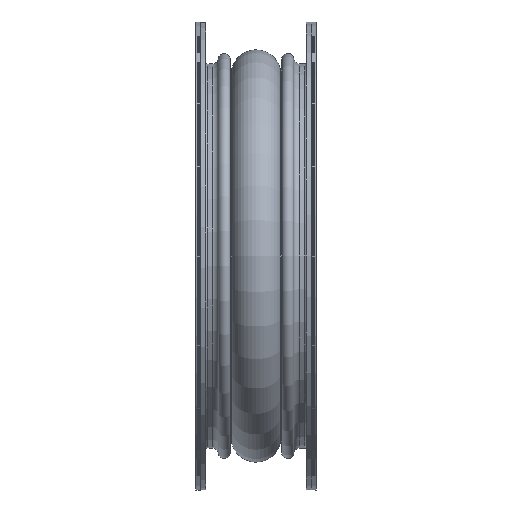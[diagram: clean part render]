
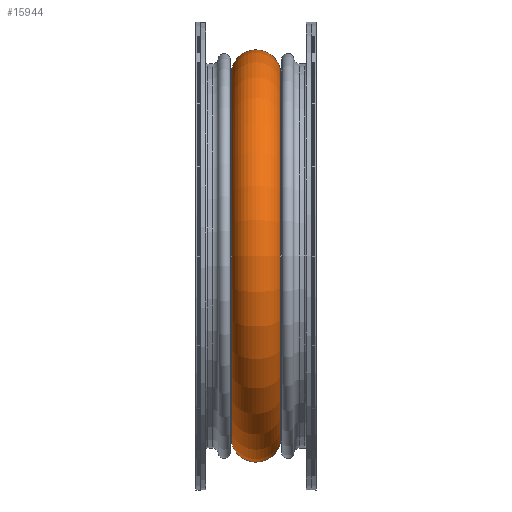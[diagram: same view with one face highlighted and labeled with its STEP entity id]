
A CAD part, front view. The second image highlights one B-rep face of the part: STEP entity #15944.
In plain terms, the highlighted toroidal (fillet/blend) face has major radius 381 mm and minor radius 52.483 mm.
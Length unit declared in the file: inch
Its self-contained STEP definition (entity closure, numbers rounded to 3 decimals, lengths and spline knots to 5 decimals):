
#15910=CARTESIAN_POINT('',(-1.99993,15.51929,0.0));
#15911=VERTEX_POINT('',#15910);
#15912=CARTESIAN_POINT('',(-1.99993,0.0,0.0));
#15913=DIRECTION('',(1.0,0.0,0.0));
#15914=DIRECTION('',(0.0,1.0,0.0));
#15915=AXIS2_PLACEMENT_3D('',#15912,#15913,#15914);
#15916=CIRCLE('',#15915,15.51929);
#15917=EDGE_CURVE('',#15911,#15911,#15916,.T.);
#15925=CARTESIAN_POINT('',(0.0,0.0,0.0));
#15926=DIRECTION('',(1.0,0.0,0.0));
#15927=DIRECTION('',(0.0,0.0,-1.0));
#15928=AXIS2_PLACEMENT_3D('',#15925,#15926,#15927);
#15929=TOROIDAL_SURFACE('',#15928,15.,2.06625);
#15930=CARTESIAN_POINT('',(1.99993,15.51929,0.0));
#15931=VERTEX_POINT('',#15930);
#15932=CARTESIAN_POINT('',(1.99993,0.0,0.0));
#15933=DIRECTION('',(1.0,0.0,0.0));
#15934=DIRECTION('',(0.0,1.0,0.0));
#15935=AXIS2_PLACEMENT_3D('',#15932,#15933,#15934);
#15936=CIRCLE('',#15935,15.51929);
#15937=EDGE_CURVE('',#15931,#15931,#15936,.T.);
#15938=ORIENTED_EDGE('',*,*,#15937,.F.);
#15939=EDGE_LOOP('',(#15938));
#15940=FACE_OUTER_BOUND('',#15939,.T.);
#15941=ORIENTED_EDGE('',*,*,#15917,.T.);
#15942=EDGE_LOOP('',(#15941));
#15943=FACE_BOUND('',#15942,.T.);
#15944=ADVANCED_FACE('',(#15940,#15943),#15929,.T.);
